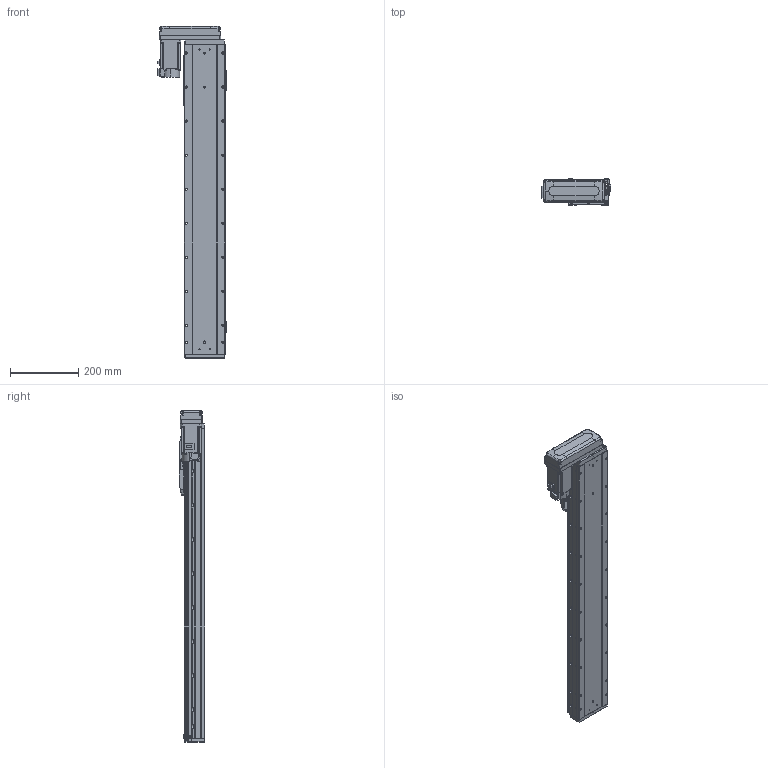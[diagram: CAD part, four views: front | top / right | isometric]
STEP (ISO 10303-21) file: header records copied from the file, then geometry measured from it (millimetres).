
FILE_DESCRIPTION (( 'STEP AP203' ), '1' );
FILE_NAME ('GTH12-700-BR-M40-C4.step', '2023-07-05T00:06:56', ( '微软用户' ), ( '微软中国' ), 'SwSTEP 2.0', 'SolidWorks 2020', '' );
FILE_SCHEMA (( 'CONFIG_CONTROL_DESIGN' ));
Length unit declared in the file: millimetre
Products named in the file (18): GTH50-023; GTH12-700-BR-M40-C4; GTH120-013; GTH50-024; GBT 70.1-M3℅6; GBT96.1-2002 3×0.8; GBT 70.1-M5×16; BTH-M3X5X6; GTH120-001_700; GBT 70.3-M3℅8; hg-kn43j_-s100_; GTH120-003; GTH80-022; CTHA86-033_M40B; GTH120-006; GTH80-028; GTH120-027-1_GTH120-027-2; GTH120-004
Assembly tree (59 placements, depth 2):
  GTH12-700-BR-M40-C4
    GTH120-001_700
    GTH120-003
    GTH120-006
    GTH120-004
    GTH120-013
    GBT 70.1-M3℅6  x14
    GBT 70.1-M5×16  x10
    GBT 70.3-M3℅8  x4
    GTH80-022
    GTH80-028  x2
    GTH50-023  x3
    GTH50-024  x3
    GBT96.1-2002 3×0.8  x6
    BTH-M3X5X6  x8
    hg-kn43j_-s100_
    CTHA86-033_M40B
    GTH120-027-1_GTH120-027-2
Bounding box: 203.5 x 76 x 975.5 mm (x, y, z)
Volume: 7211603.9 mm3; surface area: 659619.9 mm2
Topology: 61 solids, 61 shells, 2474 faces, 5777 edges, 3545 vertices
Faces by surface type: plane 1270, cylinder 720, cone 296, torus 174, sphere 8, bspline 6
Entity records: 46531 total; most frequent: CARTESIAN_POINT 7882, DIRECTION 7713, ORIENTED_EDGE 7164, EDGE_CURVE 3582, AXIS2_PLACEMENT_3D 2697, LINE 2319, VECTOR 2319, VERTEX_POINT 2266
